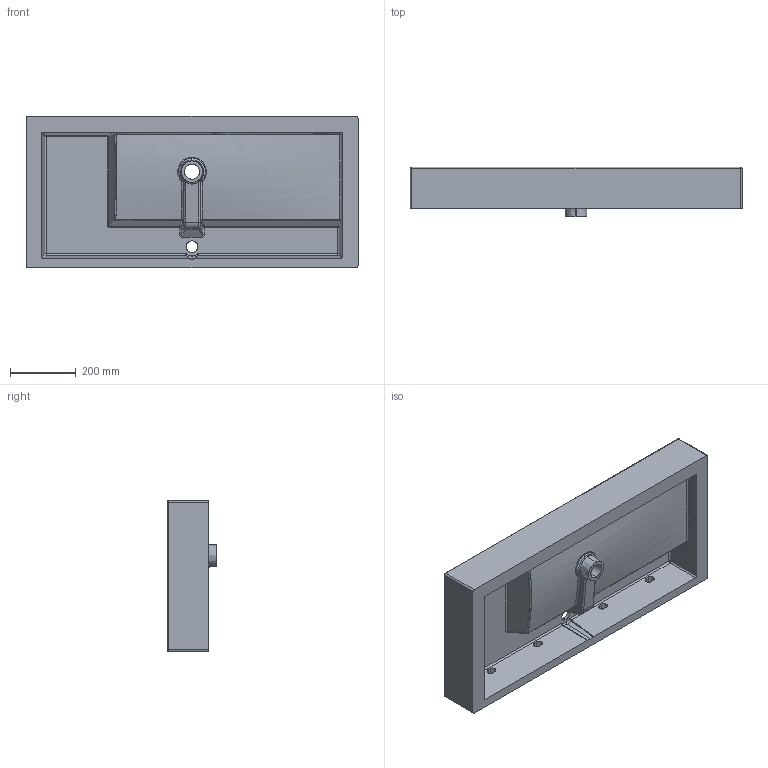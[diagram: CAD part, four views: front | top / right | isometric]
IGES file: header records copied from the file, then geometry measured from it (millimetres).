
Start section: SolidWorks IGES file using analytic representation for surfaces
Global section: file name: \\vmware-host\Shared Folders\Documenti\Lavoro\modifiche Tecla\3D-modifiche\TWENTY 101\PROJECT2017 100 Psix.IGS; native system: SolidWorks 2017; preprocessor: SolidWorks 2017; author: silvia; date: 171109.162204; units: millimetre
Bounding box: 1010 x 150 x 460 mm (x, y, z)
Surface area: 1675036.5 mm2 (no closed solid volume)
Topology: 0 solids, 0 shells, 186 faces, 2358 edges, 2348 vertices
Faces by surface type: bspline 94, revolution 92
